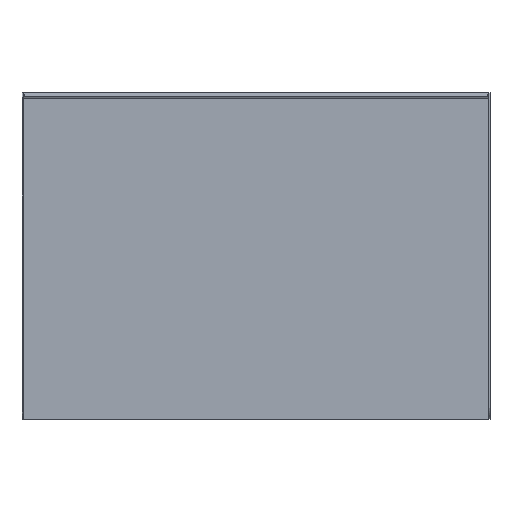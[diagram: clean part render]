
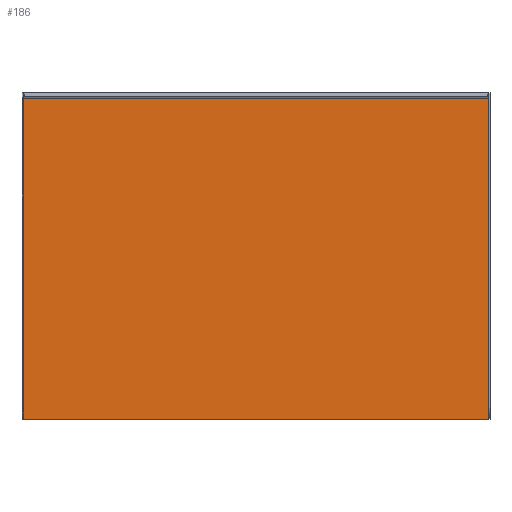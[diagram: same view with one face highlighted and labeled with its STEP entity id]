
A CAD part, front view. The second image highlights one B-rep face of the part: STEP entity #186.
In plain terms, the highlighted planar face has unit normal (0, -1, 0).
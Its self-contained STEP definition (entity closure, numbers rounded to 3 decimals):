
#48 = LINE ( 'NONE', #1111, #60 ) ;
#60 = VECTOR ( 'NONE', #1231, 1000. ) ;
#67 = FACE_OUTER_BOUND ( 'NONE', #1624, .T. ) ;
#149 = EDGE_CURVE ( 'NONE', #173, #1357, #285, .T. ) ;
#173 = VERTEX_POINT ( 'NONE', #572 ) ;
#186 = ADVANCED_FACE ( 'NONE', ( #67 ), #839, .T. ) ;
#201 = AXIS2_PLACEMENT_3D ( 'NONE', #1506, #1385, #1128 ) ;
#285 = LINE ( 'NONE', #543, #1146 ) ;
#288 = ORIENTED_EDGE ( 'NONE', *, *, #149, .F. ) ;
#319 = CARTESIAN_POINT ( 'NONE',  ( 497., -15., -347. ) ) ;
#354 = LINE ( 'NONE', #876, #1414 ) ;
#543 = CARTESIAN_POINT ( 'NONE',  ( 497., -15., 347. ) ) ;
#572 = CARTESIAN_POINT ( 'NONE',  ( 497., -15., 347. ) ) ;
#606 = CARTESIAN_POINT ( 'NONE',  ( -497., -15., -347. ) ) ;
#650 = CARTESIAN_POINT ( 'NONE',  ( -497., -15., 347. ) ) ;
#702 = ORIENTED_EDGE ( 'NONE', *, *, #1488, .F. ) ;
#717 = ORIENTED_EDGE ( 'NONE', *, *, #1694, .F. ) ;
#785 = VERTEX_POINT ( 'NONE', #606 ) ;
#839 = PLANE ( 'NONE',  #201 ) ;
#871 = EDGE_CURVE ( 'NONE', #1206, #173, #1275, .T. ) ;
#876 = CARTESIAN_POINT ( 'NONE',  ( -497., -15., -347. ) ) ;
#904 = ORIENTED_EDGE ( 'NONE', *, *, #871, .F. ) ;
#992 = CARTESIAN_POINT ( 'NONE',  ( -497., -15., 347. ) ) ;
#1111 = CARTESIAN_POINT ( 'NONE',  ( -497., -15., 347. ) ) ;
#1128 = DIRECTION ( 'NONE',  ( 0., 0., -1. ) ) ;
#1146 = VECTOR ( 'NONE', #1542, 1000. ) ;
#1206 = VERTEX_POINT ( 'NONE', #650 ) ;
#1231 = DIRECTION ( 'NONE',  ( 0., 0., 1. ) ) ;
#1275 = LINE ( 'NONE', #992, #1382 ) ;
#1280 = DIRECTION ( 'NONE',  ( -1., 0., 0. ) ) ;
#1357 = VERTEX_POINT ( 'NONE', #319 ) ;
#1382 = VECTOR ( 'NONE', #1520, 1000. ) ;
#1385 = DIRECTION ( 'NONE',  ( 0., -1., 0. ) ) ;
#1414 = VECTOR ( 'NONE', #1280, 1000. ) ;
#1488 = EDGE_CURVE ( 'NONE', #1357, #785, #354, .T. ) ;
#1506 = CARTESIAN_POINT ( 'NONE',  ( 0., -15., 0. ) ) ;
#1520 = DIRECTION ( 'NONE',  ( 1., 0., 0. ) ) ;
#1542 = DIRECTION ( 'NONE',  ( 0., 0., -1. ) ) ;
#1624 = EDGE_LOOP ( 'NONE', ( #288, #904, #717, #702 ) ) ;
#1694 = EDGE_CURVE ( 'NONE', #785, #1206, #48, .T. ) ;
